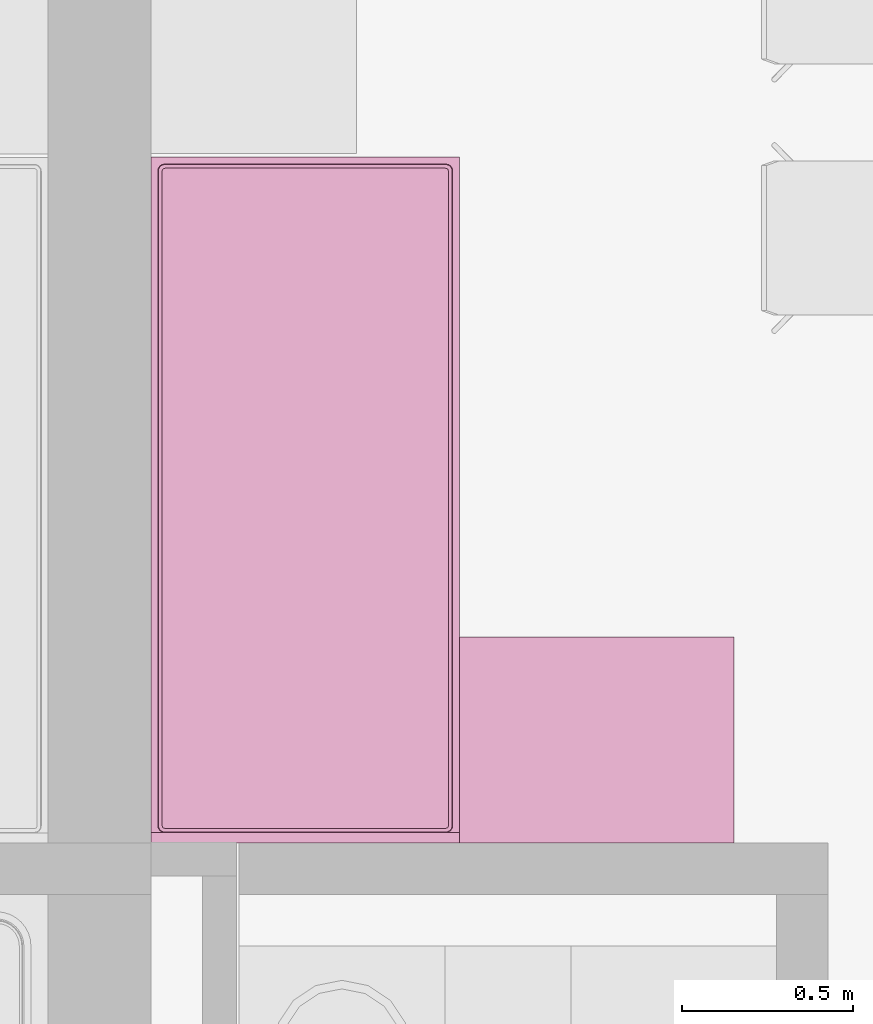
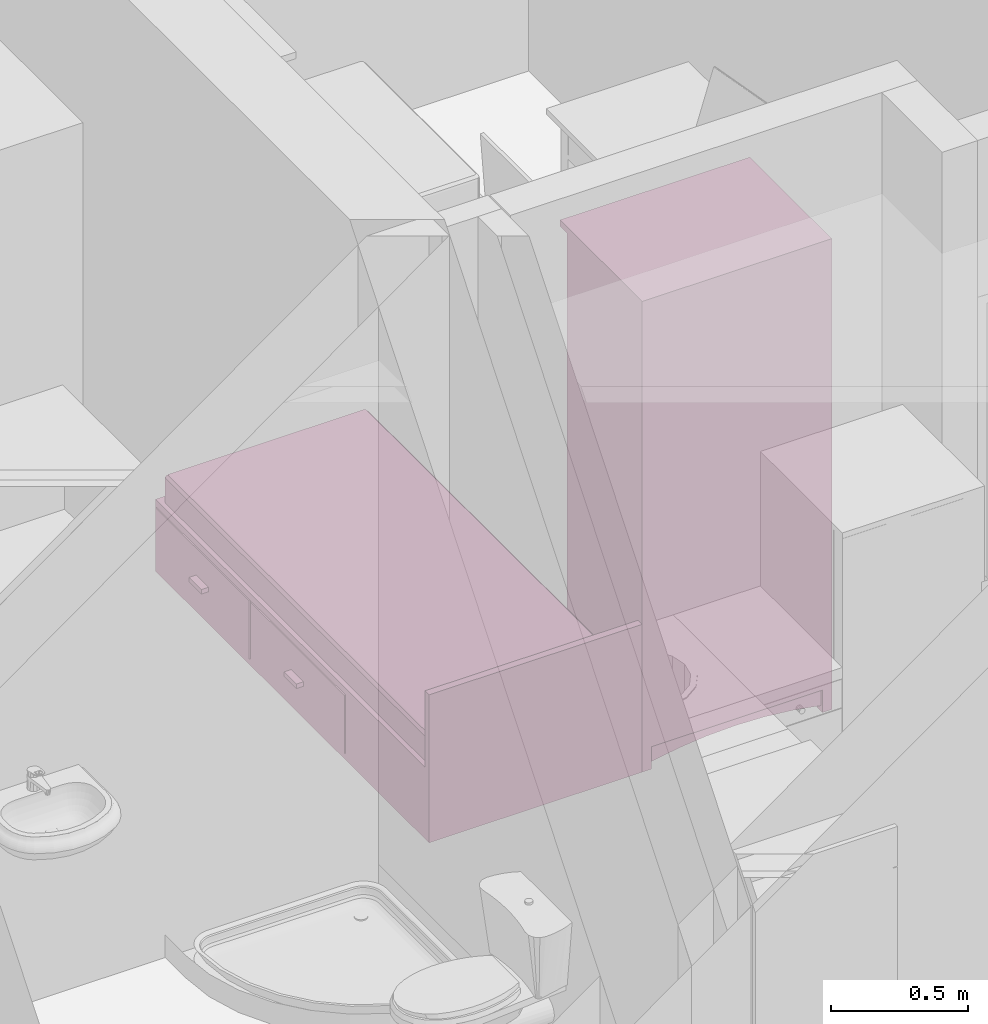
# One storey, part 131 of 165: 2 furnishings.
"""IFC2X3 building model written with IfcOpenShell, lengths in millimetres."""

from ifc_helpers import new_model, entity, si_unit, converted_unit, money_unit, direction, frame, origin_with_axes, place, context, subcontext, project, spatial, faceted_brep, source, transform, mapped, material, material_list, type_object, element, save


model = new_model("IFC2X3")

# Units and contexts
model_context = context("Model", 3, precision=1e-05, world=origin_with_axes(), true_north=direction((0.0, 1.0)))
body_context = subcontext(model_context, "Body", "Model", "MODEL_VIEW")
ifc_project = project(units=[si_unit("LENGTHUNIT", "METRE", prefix="MILLI"), si_unit("AREAUNIT", "SQUARE_METRE"), si_unit("VOLUMEUNIT", "CUBIC_METRE"), converted_unit("PLANEANGLEUNIT", "DEGREE", entity("IfcPlaneAngleMeasure", 0.0174532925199), si_unit("PLANEANGLEUNIT", "RADIAN"), dimensions=[0, 0, 0, 0, 0, 0, 0]), si_unit("SOLIDANGLEUNIT", "STERADIAN"), money_unit("USD"), converted_unit("TIMEUNIT", "Year", entity("IfcTimeMeasure", 31556926.0), si_unit("TIMEUNIT", "SECOND"), dimensions=[0, 0, 0, 0, 0, 0, 0]), si_unit("MASSUNIT", "GRAM"), si_unit("THERMODYNAMICTEMPERATUREUNIT", "DEGREE_CELSIUS"), si_unit("LUMINOUSINTENSITYUNIT", "LUMEN")], contexts=[model_context])

# Site, building, storey
site_placement = place(None, origin_with_axes())
site = spatial("IfcSite", under=ifc_project, at=site_placement, Name="Site", CompositionType="ELEMENT")
building_placement = place(site_placement, origin_with_axes())
building = spatial("IfcBuilding", under=site, at=building_placement, Name="Building", CompositionType="ELEMENT")
storey_placement = place(building_placement, frame((0.0, 0.0, 6300.0), z_axis=(0.0, 0.0, 1.0), x_axis=(1.0, 0.0, 0.0)))
storey = spatial("IfcBuildingStorey", under=building, at=storey_placement, Name="4KORRUS", CompositionType="ELEMENT", Elevation=6300.0)

# Furnishings
ifc_material = material(Name="Background")
ifc_material_list = material_list([ifc_material])
furnishing_element_type_1 = type_object("IfcFurnishingElementType", Name="Bed 19")
shared_shape_1 = source(origin_with_axes(), body_context, "Body", "Brep", [
    faceted_brep([(900.0, 1970.0, 0.0), (0.0, 1970.0, 0.0), (0.0, 2000.0, 0.0), (900.0, 2000.0, 0.0), (900.0, 1970.0, 660.0), (0.0, 1970.0, 660.0), (0.0, 2000.0, 660.0), (900.0, 2000.0, 660.0)], [[[0, 1, 2, 3]], [[1, 0, 4, 5]], [[2, 1, 5, 6]], [[3, 2, 6, 7]], [[0, 3, 7, 4]], [[5, 4, 7, 6]]]),
    faceted_brep([(900.0, 0.0, 0.0), (0.0, 0.0, 0.0), (0.0, 1970.0, 0.0), (900.0, 1970.0, 0.0), (900.0, 0.0, 320.0), (0.0, 0.0, 320.0), (0.0, 1970.0, 320.0), (900.0, 1970.0, 320.0)], [[[0, 1, 2, 3]], [[1, 0, 4, 5]], [[2, 1, 5, 6]], [[3, 2, 6, 7]], [[0, 3, 7, 4]], [[5, 4, 7, 6]]]),
    faceted_brep([(905.0, 10.0, 30.0), (900.0, 10.0, 30.0), (900.0, 695.0, 30.0), (905.0, 695.0, 30.0), (905.0, 10.0, 290.0), (900.0, 10.0, 290.0), (900.0, 695.0, 290.0), (905.0, 695.0, 290.0)], [[[0, 1, 2, 3]], [[1, 0, 4, 5]], [[2, 1, 5, 6]], [[3, 2, 6, 7]], [[0, 3, 7, 4]], [[5, 4, 7, 6]]]),
    faceted_brep([(935.0, 307.5, 150.0), (905.0, 307.5, 150.0), (905.0, 397.5, 150.0), (935.0, 397.5, 150.0), (935.0, 307.5, 170.0), (905.0, 307.5, 170.0), (905.0, 397.5, 170.0), (935.0, 397.5, 170.0)], [[[0, 1, 2, 3]], [[1, 0, 4, 5]], [[2, 1, 5, 6]], [[3, 2, 6, 7]], [[0, 3, 7, 4]], [[5, 4, 7, 6]]]),
    faceted_brep([(905.0, 705.0, 30.0), (900.0, 705.0, 30.0), (900.0, 1390.0, 30.0), (905.0, 1390.0, 30.0), (905.0, 705.0, 290.0), (900.0, 705.0, 290.0), (900.0, 1390.0, 290.0), (905.0, 1390.0, 290.0)], [[[0, 1, 2, 3]], [[1, 0, 4, 5]], [[2, 1, 5, 6]], [[3, 2, 6, 7]], [[0, 3, 7, 4]], [[5, 4, 7, 6]]]),
    faceted_brep([(935.0, 1002.5, 150.0), (905.0, 1002.5, 150.0), (905.0, 1092.5, 150.0), (935.0, 1092.5, 150.0), (935.0, 1002.5, 170.0), (905.0, 1002.5, 170.0), (905.0, 1092.5, 170.0), (935.0, 1092.5, 170.0)], [[[0, 1, 2, 3]], [[1, 0, 4, 5]], [[2, 1, 5, 6]], [[3, 2, 6, 7]], [[0, 3, 7, 4]], [[5, 4, 7, 6]]]),
    faceted_brep([(20.0, 40.0, 350.0), (20.0, 1950.0, 350.0), (21.522, 1957.654, 350.0), (25.858, 1964.142, 350.0), (32.346, 1968.478, 350.0), (40.0, 1970.0, 350.0), (860.0, 1970.0, 350.0), (867.654, 1968.478, 350.0), (874.142, 1964.142, 350.0), (878.478, 1957.654, 350.0), (880.0, 1950.0, 350.0), (880.0, 40.0, 350.0), (878.478, 32.346, 350.0), (874.142, 25.858, 350.0), (867.654, 21.522, 350.0), (860.0, 20.0, 350.0), (40.0, 20.0, 350.0), (32.346, 21.522, 350.0), (25.858, 25.858, 350.0), (21.522, 32.346, 350.0), (20.0, 40.0, 420.0), (20.0, 1950.0, 420.0), (21.522, 1957.654, 420.0), (25.858, 1964.142, 420.0), (32.346, 1968.478, 420.0), (40.0, 1970.0, 420.0), (860.0, 1970.0, 420.0), (867.654, 1968.478, 420.0), (874.142, 1964.142, 420.0), (878.478, 1957.654, 420.0), (880.0, 1950.0, 420.0), (880.0, 40.0, 420.0), (878.478, 32.346, 420.0), (874.142, 25.858, 420.0), (867.654, 21.522, 420.0), (860.0, 20.0, 420.0), (40.0, 20.0, 420.0), (32.346, 21.522, 420.0), (25.858, 25.858, 420.0), (21.522, 32.346, 420.0), (21.522, 40.15, 427.654), (21.522, 1949.85, 427.654), (22.956, 1957.06, 427.654), (26.955, 1963.045, 427.654), (32.94, 1967.044, 427.654), (40.15, 1968.478, 427.654), (859.85, 1968.478, 427.654), (867.06, 1967.044, 427.654), (873.045, 1963.045, 427.654), (877.044, 1957.06, 427.654), (878.478, 1949.85, 427.654), (878.478, 40.15, 427.654), (877.044, 32.94, 427.654), (873.045, 26.955, 427.654), (867.06, 22.956, 427.654), (859.85, 21.522, 427.654), (40.15, 21.522, 427.654), (32.94, 22.956, 427.654), (26.955, 26.955, 427.654), (22.956, 32.94, 427.654), (32.346, 41.216, 438.478), (32.346, 1948.784, 438.478), (33.152, 1952.836, 438.478), (34.759, 1955.241, 438.478), (37.164, 1956.848, 438.478), (41.216, 1957.654, 438.478), (858.784, 1957.654, 438.478), (862.836, 1956.848, 438.478), (865.241, 1955.241, 438.478), (866.848, 1952.836, 438.478), (867.654, 1948.784, 438.478), (867.654, 41.216, 438.478), (866.848, 37.164, 438.478), (865.241, 34.759, 438.478), (862.836, 33.152, 438.478), (858.784, 32.346, 438.478), (41.216, 32.346, 438.478), (37.164, 33.152, 438.478), (34.759, 34.759, 438.478), (33.152, 37.164, 438.478), (40.0, 41.97, 440.0), (40.0, 1948.03, 440.0), (40.327, 1949.673, 440.0), (40.0, 1950.0, 439.924), (41.97, 1950.0, 440.0), (858.03, 1950.0, 440.0), (859.673, 1949.673, 440.0), (860.0, 1950.0, 439.924), (860.0, 1948.03, 440.0), (860.0, 41.97, 440.0), (859.673, 40.327, 440.0), (860.0, 40.0, 439.924), (858.03, 40.0, 440.0), (41.97, 40.0, 440.0), (40.327, 40.327, 440.0), (40.0, 40.0, 439.924)], [[[0, 1, 2, 3, 4, 5, 6, 7, 8, 9, 10, 11, 12, 13, 14, 15, 16, 17, 18, 19]], [[1, 0, 20, 21]], [[2, 1, 21, 22]], [[3, 2, 22, 23]], [[4, 3, 23, 24]], [[5, 4, 24, 25]], [[6, 5, 25, 26]], [[7, 6, 26, 27]], [[8, 7, 27, 28]], [[9, 8, 28, 29]], [[10, 9, 29, 30]], [[11, 10, 30, 31]], [[12, 11, 31, 32]], [[13, 12, 32, 33]], [[14, 13, 33, 34]], [[15, 14, 34, 35]], [[16, 15, 35, 36]], [[17, 16, 36, 37]], [[18, 17, 37, 38]], [[19, 18, 38, 39]], [[0, 19, 39, 20]], [[21, 20, 40, 41]], [[22, 21, 41, 42]], [[23, 22, 42, 43]], [[24, 23, 43, 44]], [[25, 24, 44, 45]], [[26, 25, 45, 46]], [[27, 26, 46, 47]], [[28, 27, 47, 48]], [[29, 28, 48, 49]], [[30, 29, 49, 50]], [[31, 30, 50, 51]], [[32, 31, 51, 52]], [[33, 32, 52, 53]], [[34, 33, 53, 54]], [[35, 34, 54, 55]], [[36, 35, 55, 56]], [[37, 36, 56, 57]], [[38, 37, 57, 58]], [[39, 38, 58, 59]], [[20, 39, 59, 40]], [[41, 40, 60, 61]], [[42, 41, 61, 62]], [[43, 42, 62, 63]], [[44, 43, 63, 64]], [[45, 44, 64, 65]], [[46, 45, 65, 66]], [[47, 46, 66, 67]], [[48, 47, 67, 68]], [[49, 48, 68, 69]], [[50, 49, 69, 70]], [[51, 50, 70, 71]], [[52, 51, 71, 72]], [[53, 52, 72, 73]], [[54, 53, 73, 74]], [[55, 54, 74, 75]], [[56, 55, 75, 76]], [[57, 56, 76, 77]], [[58, 57, 77, 78]], [[59, 58, 78, 79]], [[40, 59, 79, 60]], [[61, 60, 80, 81]], [[62, 61, 81, 82, 83]], [[63, 62, 83]], [[64, 63, 83]], [[65, 64, 83, 82, 84]], [[66, 65, 84, 85]], [[67, 66, 85, 86, 87]], [[68, 67, 87]], [[69, 68, 87]], [[70, 69, 87, 86, 88]], [[71, 70, 88, 89]], [[72, 71, 89, 90, 91]], [[73, 72, 91]], [[74, 73, 91]], [[75, 74, 91, 90, 92]], [[76, 75, 92, 93]], [[77, 76, 93, 94, 95]], [[78, 77, 95]], [[79, 78, 95]], [[60, 79, 95, 94, 80]], [[81, 80, 94, 93, 92, 90, 89, 88, 86, 85, 84, 82]]]),
    faceted_brep([(20.0, 40.0, 350.0), (21.522, 32.346, 350.0), (25.858, 25.858, 350.0), (32.346, 21.522, 350.0), (40.0, 20.0, 350.0), (860.0, 20.0, 350.0), (867.654, 21.522, 350.0), (874.142, 25.858, 350.0), (878.478, 32.346, 350.0), (880.0, 40.0, 350.0), (880.0, 1950.0, 350.0), (878.478, 1957.654, 350.0), (874.142, 1964.142, 350.0), (867.654, 1968.478, 350.0), (860.0, 1970.0, 350.0), (40.0, 1970.0, 350.0), (32.346, 1968.478, 350.0), (25.858, 1964.142, 350.0), (21.522, 1957.654, 350.0), (20.0, 1950.0, 350.0), (20.0, 40.0, 320.0), (21.522, 32.346, 320.0), (25.858, 25.858, 320.0), (32.346, 21.522, 320.0), (40.0, 20.0, 320.0), (860.0, 20.0, 320.0), (867.654, 21.522, 320.0), (874.142, 25.858, 320.0), (878.478, 32.346, 320.0), (880.0, 40.0, 320.0), (880.0, 1950.0, 320.0), (878.478, 1957.654, 320.0), (874.142, 1964.142, 320.0), (867.654, 1968.478, 320.0), (860.0, 1970.0, 320.0), (40.0, 1970.0, 320.0), (32.346, 1968.478, 320.0), (25.858, 1964.142, 320.0), (21.522, 1957.654, 320.0), (20.0, 1950.0, 320.0)], [[[0, 1, 2, 3, 4, 5, 6, 7, 8, 9, 10, 11, 12, 13, 14, 15, 16, 17, 18, 19]], [[0, 20, 21, 1]], [[1, 21, 22, 2]], [[2, 22, 23, 3]], [[3, 23, 24, 4]], [[4, 24, 25, 5]], [[5, 25, 26, 6]], [[6, 26, 27, 7]], [[7, 27, 28, 8]], [[8, 28, 29, 9]], [[9, 29, 30, 10]], [[10, 30, 31, 11]], [[11, 31, 32, 12]], [[12, 32, 33, 13]], [[13, 33, 34, 14]], [[14, 34, 35, 15]], [[15, 35, 36, 16]], [[16, 36, 37, 17]], [[17, 37, 38, 18]], [[18, 38, 39, 19]], [[19, 39, 20, 0]], [[20, 39, 38, 37, 36, 35, 34, 33, 32, 31, 30, 29, 28, 27, 26, 25, 24, 23, 22, 21]]]),
])
furnishing_1_placement = place(storey_placement, frame((909.703296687, -7216.37850445, 0.0), z_axis=(0.0, 0.0, 1.0), x_axis=(-1.0, 0.0, 0.0)))
element("IfcFurnishingElement", 1, at=furnishing_1_placement, inside=storey, type_object=furnishing_element_type_1, material=ifc_material_list, Name="FU - 013", context=body_context, shape_type="MappedRepresentation", body=[
    mapped(shared_shape_1, transform((0.0, 0.0, 0.0))),
])
furnishing_element_type_2 = type_object("IfcFurnishingElementType", Name="Cupboard 19")
shared_shape_2 = source(origin_with_axes(), body_context, "Body", "Brep", [
    faceted_brep([(780.0, 600.0, 120.0), (780.0, 600.0, 2050.0), (780.0, 580.0, 2050.0), (780.0, 580.0, 120.0), (20.0, 600.0, 120.0), (20.0, 600.0, 2050.0), (20.0, 580.0, 2050.0), (20.0, 580.0, 120.0)], [[[0, 1, 2, 3]], [[4, 5, 1, 0]], [[1, 5, 6, 2]], [[3, 2, 6, 7]], [[0, 3, 7, 4]], [[7, 6, 5, 4]]]),
    faceted_brep([(0.0, 50.0, 100.0), (0.0, 600.0, 100.0), (20.0, 600.0, 100.0), (20.0, 50.0, 100.0), (0.0, 50.0, 2070.0), (0.0, 600.0, 2070.0), (20.0, 600.0, 2070.0), (20.0, 50.0, 2070.0)], [[[0, 1, 2, 3]], [[0, 4, 5, 1]], [[1, 5, 6, 2]], [[2, 6, 7, 3]], [[3, 7, 4, 0]], [[7, 6, 5, 4]]]),
    faceted_brep([(780.0, 50.0, 100.0), (780.0, 600.0, 100.0), (800.0, 600.0, 100.0), (800.0, 50.0, 100.0), (780.0, 50.0, 2070.0), (780.0, 600.0, 2070.0), (800.0, 600.0, 2070.0), (800.0, 50.0, 2070.0)], [[[0, 1, 2, 3]], [[0, 4, 5, 1]], [[1, 5, 6, 2]], [[2, 6, 7, 3]], [[3, 7, 4, 0]], [[7, 6, 5, 4]]]),
    faceted_brep([(20.0, 50.0, 100.0), (20.0, 600.0, 100.0), (780.0, 600.0, 100.0), (780.0, 50.0, 100.0), (20.0, 50.0, 120.0), (20.0, 600.0, 120.0), (780.0, 600.0, 120.0), (780.0, 50.0, 120.0)], [[[0, 1, 2, 3]], [[0, 4, 5, 1]], [[1, 5, 6, 2]], [[2, 6, 7, 3]], [[3, 7, 4, 0]], [[7, 6, 5, 4]]]),
    faceted_brep([(20.0, 50.0, 2050.0), (20.0, 600.0, 2050.0), (780.0, 600.0, 2050.0), (780.0, 50.0, 2050.0), (20.0, 50.0, 2070.0), (20.0, 600.0, 2070.0), (780.0, 600.0, 2070.0), (780.0, 50.0, 2070.0)], [[[0, 1, 2, 3]], [[0, 4, 5, 1]], [[1, 5, 6, 2]], [[2, 6, 7, 3]], [[3, 7, 4, 0]], [[7, 6, 5, 4]]]),
    faceted_brep([(0.0, 600.0, 2070.0), (0.0, 0.0, 2070.0), (0.0, 0.0, 2100.0), (0.0, 600.0, 2100.0), (800.0, 600.0, 2070.0), (800.0, 0.0, 2070.0), (800.0, 0.0, 2100.0), (800.0, 600.0, 2100.0)], [[[0, 1, 2, 3]], [[0, 4, 5, 1]], [[1, 5, 6, 2]], [[3, 2, 6, 7]], [[4, 0, 3, 7]], [[5, 4, 7, 6]]]),
    faceted_brep([(760.0, 590.0, 25.0), (760.0, 570.0, 25.0), (640.962, 570.0, 45.8), (640.962, 590.0, 45.8), (760.0, 590.0, 100.0), (760.0, 570.0, 100.0), (40.0, 570.0, 100.0), (40.0, 570.0, 25.0), (159.038, 570.0, 45.8), (279.23, 570.0, 58.32), (400.0, 570.0, 62.5), (520.77, 570.0, 58.32), (520.77, 590.0, 58.32), (400.0, 590.0, 62.5), (279.23, 590.0, 58.32), (159.038, 590.0, 45.8), (40.0, 590.0, 25.0), (40.0, 590.0, 100.0)], [[[0, 1, 2, 3]], [[4, 5, 1, 0]], [[1, 5, 6, 7, 8, 9, 10, 11, 2]], [[3, 2, 11, 12]], [[0, 3, 12, 13, 14, 15, 16, 17, 4]], [[17, 6, 5, 4]], [[16, 7, 6, 17]], [[15, 8, 7, 16]], [[14, 9, 8, 15]], [[13, 10, 9, 14]], [[12, 11, 10, 13]]]),
    faceted_brep([(760.0, 80.0, 25.0), (760.0, 60.0, 25.0), (640.962, 60.0, 45.8), (640.962, 80.0, 45.8), (760.0, 80.0, 100.0), (760.0, 60.0, 100.0), (40.0, 60.0, 100.0), (40.0, 60.0, 25.0), (159.038, 60.0, 45.8), (279.23, 60.0, 58.32), (400.0, 60.0, 62.5), (520.77, 60.0, 58.32), (520.77, 80.0, 58.32), (400.0, 80.0, 62.5), (279.23, 80.0, 58.32), (159.038, 80.0, 45.8), (40.0, 80.0, 25.0), (40.0, 80.0, 100.0)], [[[0, 1, 2, 3]], [[4, 5, 1, 0]], [[1, 5, 6, 7, 8, 9, 10, 11, 2]], [[3, 2, 11, 12]], [[0, 3, 12, 13, 14, 15, 16, 17, 4]], [[17, 6, 5, 4]], [[16, 7, 6, 17]], [[15, 8, 7, 16]], [[14, 9, 8, 15]], [[13, 10, 9, 14]], [[12, 11, 10, 13]]]),
    faceted_brep([(790.0, 90.0, 25.0), (770.0, 90.0, 25.0), (770.0, 141.266, 38.072), (790.0, 141.266, 38.072), (790.0, 90.0, 100.0), (770.0, 90.0, 100.0), (770.0, 560.0, 100.0), (770.0, 560.0, 25.0), (770.0, 508.734, 38.072), (770.0, 456.752, 47.92), (770.0, 404.257, 54.508), (770.0, 351.453, 57.808), (770.0, 298.547, 57.808), (770.0, 245.743, 54.508), (770.0, 193.248, 47.92), (790.0, 193.248, 47.92), (790.0, 245.743, 54.508), (790.0, 298.547, 57.808), (790.0, 351.453, 57.808), (790.0, 404.257, 54.508), (790.0, 456.752, 47.92), (790.0, 508.734, 38.072), (790.0, 560.0, 25.0), (790.0, 560.0, 100.0)], [[[0, 1, 2, 3]], [[4, 5, 1, 0]], [[1, 5, 6, 7, 8, 9, 10, 11, 12, 13, 14, 2]], [[3, 2, 14, 15]], [[0, 3, 15, 16, 17, 18, 19, 20, 21, 22, 23, 4]], [[23, 6, 5, 4]], [[22, 7, 6, 23]], [[21, 8, 7, 22]], [[20, 9, 8, 21]], [[19, 10, 9, 20]], [[18, 11, 10, 19]], [[17, 12, 11, 18]], [[16, 13, 12, 17]], [[15, 14, 13, 16]]]),
    faceted_brep([(30.0, 90.0, 25.0), (10.0, 90.0, 25.0), (10.0, 141.266, 38.072), (30.0, 141.266, 38.072), (30.0, 90.0, 100.0), (10.0, 90.0, 100.0), (10.0, 560.0, 100.0), (10.0, 560.0, 25.0), (10.0, 508.734, 38.072), (10.0, 456.752, 47.92), (10.0, 404.257, 54.508), (10.0, 351.453, 57.808), (10.0, 298.547, 57.808), (10.0, 245.743, 54.508), (10.0, 193.248, 47.92), (30.0, 193.248, 47.92), (30.0, 245.743, 54.508), (30.0, 298.547, 57.808), (30.0, 351.453, 57.808), (30.0, 404.257, 54.508), (30.0, 456.752, 47.92), (30.0, 508.734, 38.072), (30.0, 560.0, 25.0), (30.0, 560.0, 100.0)], [[[0, 1, 2, 3]], [[4, 5, 1, 0]], [[1, 5, 6, 7, 8, 9, 10, 11, 12, 13, 14, 2]], [[3, 2, 14, 15]], [[0, 3, 15, 16, 17, 18, 19, 20, 21, 22, 23, 4]], [[23, 6, 5, 4]], [[22, 7, 6, 23]], [[21, 8, 7, 22]], [[20, 9, 8, 21]], [[19, 10, 9, 20]], [[18, 11, 10, 19]], [[17, 12, 11, 18]], [[16, 13, 12, 17]], [[15, 14, 13, 16]]]),
    faceted_brep([(760.0, 560.0, 0.0), (760.0, 560.0, 100.0), (760.0, 600.0, 100.0), (760.0, 600.0, 0.0), (800.0, 560.0, 0.0), (800.0, 560.0, 100.0), (800.0, 600.0, 100.0), (800.0, 600.0, 0.0)], [[[0, 1, 2, 3]], [[4, 5, 1, 0]], [[1, 5, 6, 2]], [[3, 2, 6, 7]], [[0, 3, 7, 4]], [[7, 6, 5, 4]]]),
    faceted_brep([(0.0, 560.0, 0.0), (0.0, 560.0, 100.0), (0.0, 600.0, 100.0), (0.0, 600.0, 0.0), (40.0, 560.0, 0.0), (40.0, 560.0, 100.0), (40.0, 600.0, 100.0), (40.0, 600.0, 0.0)], [[[0, 1, 2, 3]], [[4, 5, 1, 0]], [[1, 5, 6, 2]], [[3, 2, 6, 7]], [[0, 3, 7, 4]], [[7, 6, 5, 4]]]),
    faceted_brep([(760.0, 50.0, 0.0), (760.0, 50.0, 100.0), (760.0, 90.0, 100.0), (760.0, 90.0, 0.0), (800.0, 50.0, 0.0), (800.0, 50.0, 100.0), (800.0, 90.0, 100.0), (800.0, 90.0, 0.0)], [[[0, 1, 2, 3]], [[4, 5, 1, 0]], [[1, 5, 6, 2]], [[3, 2, 6, 7]], [[0, 3, 7, 4]], [[7, 6, 5, 4]]]),
    faceted_brep([(0.0, 50.0, 0.0), (0.0, 50.0, 100.0), (0.0, 90.0, 100.0), (0.0, 90.0, 0.0), (40.0, 50.0, 0.0), (40.0, 50.0, 100.0), (40.0, 90.0, 100.0), (40.0, 90.0, 0.0)], [[[0, 1, 2, 3]], [[4, 5, 1, 0]], [[1, 5, 6, 2]], [[3, 2, 6, 7]], [[0, 3, 7, 4]], [[7, 6, 5, 4]]]),
    faceted_brep([(780.0, 580.0, 587.5), (780.0, 580.0, 607.5), (780.0, 50.0, 607.5), (780.0, 50.0, 587.5), (20.0, 580.0, 587.5), (20.0, 580.0, 607.5), (20.0, 50.0, 607.5), (20.0, 50.0, 587.5)], [[[0, 1, 2, 3]], [[4, 5, 1, 0]], [[1, 5, 6, 2]], [[3, 2, 6, 7]], [[0, 3, 7, 4]], [[7, 6, 5, 4]]]),
    faceted_brep([(780.0, 580.0, 1075.0), (780.0, 580.0, 1095.0), (780.0, 50.0, 1095.0), (780.0, 50.0, 1075.0), (20.0, 580.0, 1075.0), (20.0, 580.0, 1095.0), (20.0, 50.0, 1095.0), (20.0, 50.0, 1075.0)], [[[0, 1, 2, 3]], [[4, 5, 1, 0]], [[1, 5, 6, 2]], [[3, 2, 6, 7]], [[0, 3, 7, 4]], [[7, 6, 5, 4]]]),
    faceted_brep([(780.0, 580.0, 1562.5), (780.0, 580.0, 1582.5), (780.0, 50.0, 1582.5), (780.0, 50.0, 1562.5), (20.0, 580.0, 1562.5), (20.0, 580.0, 1582.5), (20.0, 50.0, 1582.5), (20.0, 50.0, 1562.5)], [[[0, 1, 2, 3]], [[4, 5, 1, 0]], [[1, 5, 6, 2]], [[3, 2, 6, 7]], [[0, 3, 7, 4]], [[7, 6, 5, 4]]]),
    faceted_brep([(789.5, 50.0, 110.5), (400.5, 50.0, 110.5), (400.5, 50.0, 2059.5), (789.5, 50.0, 2059.5), (789.5, 40.0, 110.5), (400.5, 40.0, 110.5), (400.5, 40.0, 2059.5), (789.5, 40.0, 2059.5), (779.5, 30.0, 120.5), (410.5, 30.0, 120.5), (410.5, 30.0, 2049.5), (779.5, 30.0, 2049.5)], [[[0, 1, 2, 3]], [[0, 4, 5, 1]], [[1, 5, 6, 2]], [[2, 6, 7, 3]], [[3, 7, 4, 0]], [[4, 8, 9, 5]], [[5, 9, 10, 6]], [[6, 10, 11, 7]], [[7, 11, 8, 4]], [[10, 9, 8, 11]]]),
    faceted_brep([(399.5, 50.0, 110.5), (10.5, 50.0, 110.5), (10.5, 50.0, 2059.5), (399.5, 50.0, 2059.5), (399.5, 40.0, 110.5), (10.5, 40.0, 110.5), (10.5, 40.0, 2059.5), (399.5, 40.0, 2059.5), (389.5, 30.0, 120.5), (20.5, 30.0, 120.5), (20.5, 30.0, 2049.5), (389.5, 30.0, 2049.5)], [[[0, 1, 2, 3]], [[0, 4, 5, 1]], [[1, 5, 6, 2]], [[2, 6, 7, 3]], [[3, 7, 4, 0]], [[4, 8, 9, 5]], [[5, 9, 10, 6]], [[6, 10, 11, 7]], [[7, 11, 8, 4]], [[10, 9, 8, 11]]]),
    faceted_brep([(339.608, 30.0, 954.0), (338.0, 30.0, 960.0), (339.608, 30.0, 966.0), (344.0, 30.0, 970.392), (350.0, 30.0, 972.0), (356.0, 30.0, 970.392), (360.392, 30.0, 966.0), (362.0, 30.0, 960.0), (360.392, 30.0, 954.0), (356.0, 30.0, 949.608), (350.0, 30.0, 948.0), (344.0, 30.0, 949.608), (339.608, 5.0, 954.0), (338.0, 5.0, 960.0), (339.608, 5.0, 966.0), (344.0, 5.0, 970.392), (350.0, 5.0, 972.0), (356.0, 5.0, 970.392), (360.392, 5.0, 966.0), (362.0, 5.0, 960.0), (360.392, 5.0, 954.0), (356.0, 5.0, 949.608), (350.0, 5.0, 948.0), (344.0, 5.0, 949.608)], [[[0, 1, 2, 3, 4, 5, 6, 7, 8, 9, 10, 11]], [[0, 12, 13, 1]], [[1, 13, 14, 2]], [[2, 14, 15, 3]], [[3, 15, 16, 4]], [[4, 16, 17, 5]], [[5, 17, 18, 6]], [[6, 18, 19, 7]], [[7, 19, 20, 8]], [[8, 20, 21, 9]], [[9, 21, 22, 10]], [[10, 22, 23, 11]], [[11, 23, 12, 0]], [[12, 23, 22, 21, 20, 19, 18, 17, 16, 15, 14, 13]]]),
    faceted_brep([(460.392, 30.0, 954.0), (456.0, 30.0, 949.608), (450.0, 30.0, 948.0), (444.0, 30.0, 949.608), (439.608, 30.0, 954.0), (438.0, 30.0, 960.0), (439.608, 30.0, 966.0), (444.0, 30.0, 970.392), (450.0, 30.0, 972.0), (456.0, 30.0, 970.392), (460.392, 30.0, 966.0), (462.0, 30.0, 960.0), (460.392, 5.0, 954.0), (456.0, 5.0, 949.608), (450.0, 5.0, 948.0), (444.0, 5.0, 949.608), (439.608, 5.0, 954.0), (438.0, 5.0, 960.0), (439.608, 5.0, 966.0), (444.0, 5.0, 970.392), (450.0, 5.0, 972.0), (456.0, 5.0, 970.392), (460.392, 5.0, 966.0), (462.0, 5.0, 960.0)], [[[0, 1, 2, 3, 4, 5, 6, 7, 8, 9, 10, 11]], [[1, 0, 12, 13]], [[2, 1, 13, 14]], [[3, 2, 14, 15]], [[4, 3, 15, 16]], [[5, 4, 16, 17]], [[6, 5, 17, 18]], [[7, 6, 18, 19]], [[8, 7, 19, 20]], [[9, 8, 20, 21]], [[10, 9, 21, 22]], [[11, 10, 22, 23]], [[0, 11, 23, 12]], [[12, 23, 22, 21, 20, 19, 18, 17, 16, 15, 14, 13]]]),
])
furnishing_2_placement = place(storey_placement, frame((1709.70329669, -8616.37850445, 0.0), z_axis=(0.0, 0.0, 1.0), x_axis=(-1.0, 0.0, 0.0)))
element("IfcFurnishingElement", 2, at=furnishing_2_placement, inside=storey, type_object=furnishing_element_type_2, material=ifc_material_list, Name="FU - 014", context=body_context, shape_type="MappedRepresentation", body=[
    mapped(shared_shape_2, transform((0.0, 0.0, 0.0))),
])

save(model, "model.ifc")
